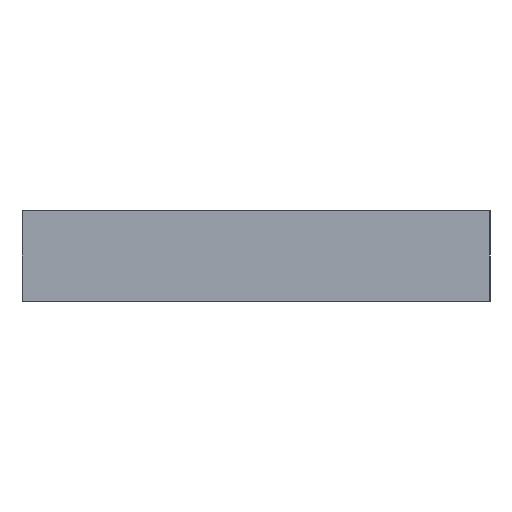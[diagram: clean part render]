
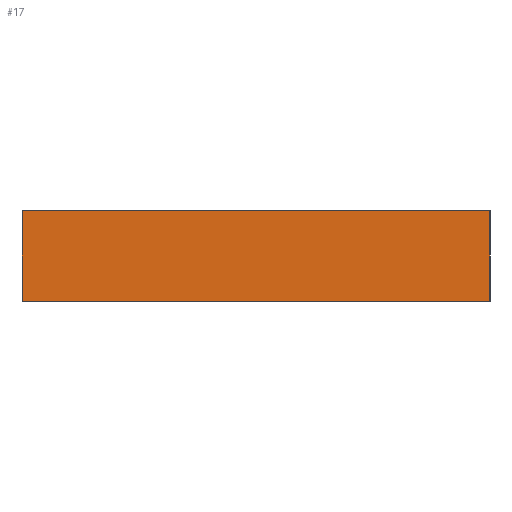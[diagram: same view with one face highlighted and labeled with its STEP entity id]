
A CAD part, left-side view. The second image highlights one B-rep face of the part: STEP entity #17.
In plain terms, the highlighted planar face has unit normal (-1, 0, 0).
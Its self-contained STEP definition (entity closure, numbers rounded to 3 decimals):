
#17 = ADVANCED_FACE('',(#18),#32,.F.);
#18 = FACE_BOUND('',#19,.F.);
#19 = EDGE_LOOP('',(#20,#55,#83,#111));
#20 = ORIENTED_EDGE('',*,*,#21,.F.);
#21 = EDGE_CURVE('',#22,#24,#26,.T.);
#22 = VERTEX_POINT('',#23);
#23 = CARTESIAN_POINT('',(0.,0.,0.));
#24 = VERTEX_POINT('',#25);
#25 = CARTESIAN_POINT('',(0.,0.,38.1));
#26 = SURFACE_CURVE('',#27,(#31,#43),.PCURVE_S1.);
#27 = LINE('',#28,#29);
#28 = CARTESIAN_POINT('',(0.,0.,0.));
#29 = VECTOR('',#30,1.);
#30 = DIRECTION('',(0.,0.,1.));
#31 = PCURVE('',#32,#37);
#32 = PLANE('',#33);
#33 = AXIS2_PLACEMENT_3D('',#34,#35,#36);
#34 = CARTESIAN_POINT('',(0.,0.,0.));
#35 = DIRECTION('',(1.,0.,0.));
#36 = DIRECTION('',(0.,0.,1.));
#37 = DEFINITIONAL_REPRESENTATION('',(#38),#42);
#38 = LINE('',#39,#40);
#39 = CARTESIAN_POINT('',(0.,0.));
#40 = VECTOR('',#41,1.);
#41 = DIRECTION('',(1.,0.));
#42 = ( GEOMETRIC_REPRESENTATION_CONTEXT(2) 
PARAMETRIC_REPRESENTATION_CONTEXT() REPRESENTATION_CONTEXT('2D SPACE',''
  ) );
#43 = PCURVE('',#44,#49);
#44 = PLANE('',#45);
#45 = AXIS2_PLACEMENT_3D('',#46,#47,#48);
#46 = CARTESIAN_POINT('',(0.,0.,0.));
#47 = DIRECTION('',(0.,1.,0.));
#48 = DIRECTION('',(0.,0.,1.));
#49 = DEFINITIONAL_REPRESENTATION('',(#50),#54);
#50 = LINE('',#51,#52);
#51 = CARTESIAN_POINT('',(0.,0.));
#52 = VECTOR('',#53,1.);
#53 = DIRECTION('',(1.,0.));
#54 = ( GEOMETRIC_REPRESENTATION_CONTEXT(2) 
PARAMETRIC_REPRESENTATION_CONTEXT() REPRESENTATION_CONTEXT('2D SPACE',''
  ) );
#55 = ORIENTED_EDGE('',*,*,#56,.T.);
#56 = EDGE_CURVE('',#22,#57,#59,.T.);
#57 = VERTEX_POINT('',#58);
#58 = CARTESIAN_POINT('',(0.,196.85,0.));
#59 = SURFACE_CURVE('',#60,(#64,#71),.PCURVE_S1.);
#60 = LINE('',#61,#62);
#61 = CARTESIAN_POINT('',(0.,0.,0.));
#62 = VECTOR('',#63,1.);
#63 = DIRECTION('',(0.,1.,0.));
#64 = PCURVE('',#32,#65);
#65 = DEFINITIONAL_REPRESENTATION('',(#66),#70);
#66 = LINE('',#67,#68);
#67 = CARTESIAN_POINT('',(0.,0.));
#68 = VECTOR('',#69,1.);
#69 = DIRECTION('',(0.,-1.));
#70 = ( GEOMETRIC_REPRESENTATION_CONTEXT(2) 
PARAMETRIC_REPRESENTATION_CONTEXT() REPRESENTATION_CONTEXT('2D SPACE',''
  ) );
#71 = PCURVE('',#72,#77);
#72 = PLANE('',#73);
#73 = AXIS2_PLACEMENT_3D('',#74,#75,#76);
#74 = CARTESIAN_POINT('',(0.,0.,0.));
#75 = DIRECTION('',(0.,0.,1.));
#76 = DIRECTION('',(1.,0.,0.));
#77 = DEFINITIONAL_REPRESENTATION('',(#78),#82);
#78 = LINE('',#79,#80);
#79 = CARTESIAN_POINT('',(0.,0.));
#80 = VECTOR('',#81,1.);
#81 = DIRECTION('',(0.,1.));
#82 = ( GEOMETRIC_REPRESENTATION_CONTEXT(2) 
PARAMETRIC_REPRESENTATION_CONTEXT() REPRESENTATION_CONTEXT('2D SPACE',''
  ) );
#83 = ORIENTED_EDGE('',*,*,#84,.T.);
#84 = EDGE_CURVE('',#57,#85,#87,.T.);
#85 = VERTEX_POINT('',#86);
#86 = CARTESIAN_POINT('',(0.,196.85,38.1));
#87 = SURFACE_CURVE('',#88,(#92,#99),.PCURVE_S1.);
#88 = LINE('',#89,#90);
#89 = CARTESIAN_POINT('',(0.,196.85,0.));
#90 = VECTOR('',#91,1.);
#91 = DIRECTION('',(0.,0.,1.));
#92 = PCURVE('',#32,#93);
#93 = DEFINITIONAL_REPRESENTATION('',(#94),#98);
#94 = LINE('',#95,#96);
#95 = CARTESIAN_POINT('',(0.,-196.85));
#96 = VECTOR('',#97,1.);
#97 = DIRECTION('',(1.,0.));
#98 = ( GEOMETRIC_REPRESENTATION_CONTEXT(2) 
PARAMETRIC_REPRESENTATION_CONTEXT() REPRESENTATION_CONTEXT('2D SPACE',''
  ) );
#99 = PCURVE('',#100,#105);
#100 = PLANE('',#101);
#101 = AXIS2_PLACEMENT_3D('',#102,#103,#104);
#102 = CARTESIAN_POINT('',(0.,196.85,0.));
#103 = DIRECTION('',(0.,1.,0.));
#104 = DIRECTION('',(0.,0.,1.));
#105 = DEFINITIONAL_REPRESENTATION('',(#106),#110);
#106 = LINE('',#107,#108);
#107 = CARTESIAN_POINT('',(0.,0.));
#108 = VECTOR('',#109,1.);
#109 = DIRECTION('',(1.,0.));
#110 = ( GEOMETRIC_REPRESENTATION_CONTEXT(2) 
PARAMETRIC_REPRESENTATION_CONTEXT() REPRESENTATION_CONTEXT('2D SPACE',''
  ) );
#111 = ORIENTED_EDGE('',*,*,#112,.F.);
#112 = EDGE_CURVE('',#24,#85,#113,.T.);
#113 = SURFACE_CURVE('',#114,(#118,#125),.PCURVE_S1.);
#114 = LINE('',#115,#116);
#115 = CARTESIAN_POINT('',(0.,0.,38.1));
#116 = VECTOR('',#117,1.);
#117 = DIRECTION('',(0.,1.,0.));
#118 = PCURVE('',#32,#119);
#119 = DEFINITIONAL_REPRESENTATION('',(#120),#124);
#120 = LINE('',#121,#122);
#121 = CARTESIAN_POINT('',(38.1,0.));
#122 = VECTOR('',#123,1.);
#123 = DIRECTION('',(0.,-1.));
#124 = ( GEOMETRIC_REPRESENTATION_CONTEXT(2) 
PARAMETRIC_REPRESENTATION_CONTEXT() REPRESENTATION_CONTEXT('2D SPACE',''
  ) );
#125 = PCURVE('',#126,#131);
#126 = PLANE('',#127);
#127 = AXIS2_PLACEMENT_3D('',#128,#129,#130);
#128 = CARTESIAN_POINT('',(0.,0.,38.1));
#129 = DIRECTION('',(0.,0.,1.));
#130 = DIRECTION('',(1.,0.,0.));
#131 = DEFINITIONAL_REPRESENTATION('',(#132),#136);
#132 = LINE('',#133,#134);
#133 = CARTESIAN_POINT('',(0.,0.));
#134 = VECTOR('',#135,1.);
#135 = DIRECTION('',(0.,1.));
#136 = ( GEOMETRIC_REPRESENTATION_CONTEXT(2) 
PARAMETRIC_REPRESENTATION_CONTEXT() REPRESENTATION_CONTEXT('2D SPACE',''
  ) );
